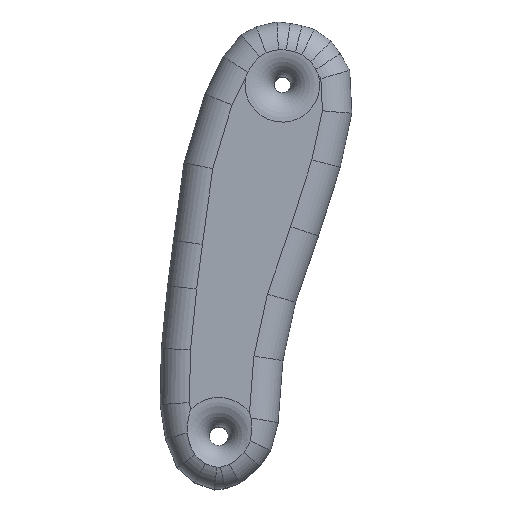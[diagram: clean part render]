
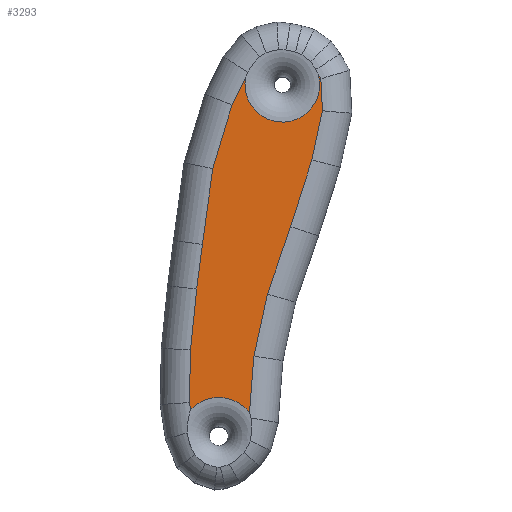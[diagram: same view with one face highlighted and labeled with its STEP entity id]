
A CAD part, top view. The second image highlights one B-rep face of the part: STEP entity #3293.
In plain terms, the highlighted planar face has unit normal (0, 0, 1).
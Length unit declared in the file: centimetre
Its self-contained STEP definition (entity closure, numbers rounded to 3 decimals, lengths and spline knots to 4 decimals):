
#968=VERTEX_POINT('',#5473);
#969=VERTEX_POINT('',#5475);
#981=VERTEX_POINT('',#5561);
#983=VERTEX_POINT('',#5567);
#984=VERTEX_POINT('',#5569);
#985=VERTEX_POINT('',#5571);
#986=VERTEX_POINT('',#5573);
#987=VERTEX_POINT('',#5575);
#988=VERTEX_POINT('',#5577);
#989=VERTEX_POINT('',#5579);
#990=VERTEX_POINT('',#5581);
#991=VERTEX_POINT('',#5583);
#992=VERTEX_POINT('',#5585);
#993=VERTEX_POINT('',#5587);
#994=VERTEX_POINT('',#5589);
#995=VERTEX_POINT('',#5591);
#996=VERTEX_POINT('',#5593);
#1428=EDGE_CURVE('',#968,#969,#3868,.T.);
#1446=EDGE_CURVE('',#969,#981,#3627,.T.);
#1449=EDGE_CURVE('',#983,#968,#3629,.T.);
#1450=EDGE_CURVE('',#984,#983,#3630,.T.);
#1451=EDGE_CURVE('',#985,#984,#3631,.T.);
#1452=EDGE_CURVE('',#986,#985,#3632,.T.);
#1453=EDGE_CURVE('',#987,#986,#3633,.T.);
#1454=EDGE_CURVE('',#988,#987,#3634,.T.);
#1455=EDGE_CURVE('',#989,#988,#3635,.T.);
#1456=EDGE_CURVE('',#990,#989,#3869,.T.);
#1457=EDGE_CURVE('',#991,#990,#3870,.T.);
#1458=EDGE_CURVE('',#992,#991,#3636,.T.);
#1459=EDGE_CURVE('',#993,#992,#3637,.T.);
#1460=EDGE_CURVE('',#994,#993,#3638,.T.);
#1461=EDGE_CURVE('',#995,#994,#3639,.T.);
#1462=EDGE_CURVE('',#996,#995,#3640,.T.);
#1463=EDGE_CURVE('',#981,#996,#3641,.T.);
#2096=ORIENTED_EDGE('',*,*,#1428,.F.);
#2097=ORIENTED_EDGE('',*,*,#1449,.F.);
#2098=ORIENTED_EDGE('',*,*,#1450,.F.);
#2099=ORIENTED_EDGE('',*,*,#1451,.F.);
#2100=ORIENTED_EDGE('',*,*,#1452,.F.);
#2101=ORIENTED_EDGE('',*,*,#1453,.F.);
#2102=ORIENTED_EDGE('',*,*,#1454,.F.);
#2103=ORIENTED_EDGE('',*,*,#1455,.F.);
#2104=ORIENTED_EDGE('',*,*,#1456,.F.);
#2105=ORIENTED_EDGE('',*,*,#1457,.F.);
#2106=ORIENTED_EDGE('',*,*,#1458,.F.);
#2107=ORIENTED_EDGE('',*,*,#1459,.F.);
#2108=ORIENTED_EDGE('',*,*,#1460,.F.);
#2109=ORIENTED_EDGE('',*,*,#1461,.F.);
#2110=ORIENTED_EDGE('',*,*,#1462,.F.);
#2111=ORIENTED_EDGE('',*,*,#1463,.F.);
#2112=ORIENTED_EDGE('',*,*,#1446,.F.);
#2888=EDGE_LOOP('',(#2096,#2097,#2098,#2099,#2100,#2101,#2102,#2103,#2104,
#2105,#2106,#2107,#2108,#2109,#2110,#2111,#2112));
#3092=FACE_BOUND('',#2888,.T.);
#3293=ADVANCED_FACE('',(#3092),#4625,.T.);
#3627=LINE('',#5560,#4475);
#3629=LINE('',#5566,#4477);
#3630=LINE('',#5568,#4478);
#3631=LINE('',#5570,#4479);
#3632=LINE('',#5572,#4480);
#3633=LINE('',#5574,#4481);
#3634=LINE('',#5576,#4482);
#3635=LINE('',#5578,#4483);
#3636=LINE('',#5584,#4484);
#3637=LINE('',#5586,#4485);
#3638=LINE('',#5588,#4486);
#3639=LINE('',#5590,#4487);
#3640=LINE('',#5592,#4488);
#3641=LINE('',#5594,#4489);
#3868=CIRCLE('',#4100,5.386);
#3869=CIRCLE('',#4113,5.2033);
#3870=CIRCLE('',#4114,5.2033);
#4100=AXIS2_PLACEMENT_3D('',#5474,#7036,#7037);
#4112=AXIS2_PLACEMENT_3D('',#5565,#7065,$);
#4113=AXIS2_PLACEMENT_3D('',#5580,#7073,#7074);
#4114=AXIS2_PLACEMENT_3D('',#5582,#7075,#7076);
#4475=VECTOR('',#7061,1.);
#4477=VECTOR('',#7066,1.);
#4478=VECTOR('',#7067,1.);
#4479=VECTOR('',#7068,1.);
#4480=VECTOR('',#7069,1.);
#4481=VECTOR('',#7070,1.);
#4482=VECTOR('',#7071,1.);
#4483=VECTOR('',#7072,1.);
#4484=VECTOR('',#7077,1.);
#4485=VECTOR('',#7078,1.);
#4486=VECTOR('',#7079,1.);
#4487=VECTOR('',#7080,1.);
#4488=VECTOR('',#7081,1.);
#4489=VECTOR('',#7082,1.);
#4625=PLANE('',#4112);
#5473=CARTESIAN_POINT('',(145.4403,54.6629,50.8));
#5474=CARTESIAN_POINT('',(141.162,51.391,50.8));
#5475=CARTESIAN_POINT('',(137.2289,55.0706,50.8));
#5560=CARTESIAN_POINT('',(135.923,63.5594,50.8));
#5561=CARTESIAN_POINT('',(137.0775,56.055,50.8));
#5565=CARTESIAN_POINT('',(145.145,77.2226,50.8));
#5566=CARTESIAN_POINT('',(146.5929,69.6467,50.8));
#5567=CARTESIAN_POINT('',(146.0436,62.5063,50.8));
#5568=CARTESIAN_POINT('',(148.4722,73.6372,50.8));
#5569=CARTESIAN_POINT('',(147.9272,71.1392,50.8));
#5570=CARTESIAN_POINT('',(150.3426,78.1608,50.8));
#5571=CARTESIAN_POINT('',(151.1656,80.5531,50.8));
#5572=CARTESIAN_POINT('',(151.916,82.9141,50.8));
#5573=CARTESIAN_POINT('',(154.1215,89.8534,50.8));
#5574=CARTESIAN_POINT('',(153.4126,86.5669,50.8));
#5575=CARTESIAN_POINT('',(155.5932,96.6768,50.8));
#5576=CARTESIAN_POINT('',(155.9251,89.9557,50.8));
#5577=CARTESIAN_POINT('',(155.3728,101.1405,50.8));
#5578=CARTESIAN_POINT('',(158.8594,95.1358,50.8));
#5579=CARTESIAN_POINT('',(154.992,101.7963,50.8));
#5580=CARTESIAN_POINT('',(150.0072,100.3042,50.8));
#5581=CARTESIAN_POINT('',(155.2105,100.3042,50.8));
#5582=CARTESIAN_POINT('',(150.0072,100.3042,50.8));
#5583=CARTESIAN_POINT('',(144.9162,101.3793,50.8));
#5584=CARTESIAN_POINT('',(139.1198,89.6208,50.8));
#5585=CARTESIAN_POINT('',(143.0068,97.506,50.8));
#5586=CARTESIAN_POINT('',(138.8948,83.9047,50.8));
#5587=CARTESIAN_POINT('',(140.3157,88.6046,50.8));
#5588=CARTESIAN_POINT('',(138.8823,78.0691,50.8));
#5589=CARTESIAN_POINT('',(138.8834,78.0768,50.8));
#5590=CARTESIAN_POINT('',(138.4751,74.9219,50.8));
#5591=CARTESIAN_POINT('',(138.0795,71.8652,50.8));
#5592=CARTESIAN_POINT('',(137.9448,70.5407,50.8));
#5593=CARTESIAN_POINT('',(137.2155,63.3694,50.8));
#5594=CARTESIAN_POINT('',(137.2753,66.5365,50.8));
#7036=DIRECTION('',(0.,0.,1.));
#7037=DIRECTION('',(-5.386,0.,0.));
#7061=DIRECTION('',(-0.152,0.988,0.));
#7065=DIRECTION('',(0.,0.,1.));
#7066=DIRECTION('',(-0.077,-0.997,0.));
#7067=DIRECTION('',(-0.213,-0.977,0.));
#7068=DIRECTION('',(-0.325,-0.946,0.));
#7069=DIRECTION('',(-0.303,-0.953,0.));
#7070=DIRECTION('',(-0.211,-0.978,0.));
#7071=DIRECTION('',(0.049,-0.999,0.));
#7072=DIRECTION('',(0.502,-0.865,0.));
#7073=DIRECTION('',(0.,0.,1.));
#7074=DIRECTION('',(-5.203,0.,0.));
#7075=DIRECTION('',(0.,0.,1.));
#7076=DIRECTION('',(-5.203,0.,0.));
#7077=DIRECTION('',(0.442,0.897,0.));
#7078=DIRECTION('',(0.289,0.957,0.));
#7079=DIRECTION('',(0.135,0.991,0.));
#7080=DIRECTION('',(0.128,0.992,0.));
#7081=DIRECTION('',(0.101,0.995,0.));
#7082=DIRECTION('',(0.019,1.,0.));
